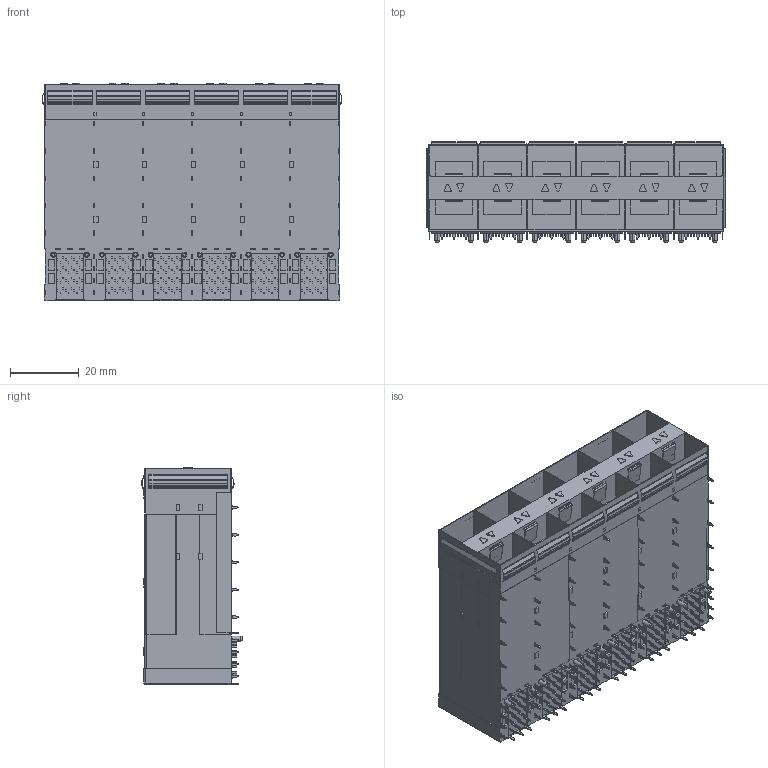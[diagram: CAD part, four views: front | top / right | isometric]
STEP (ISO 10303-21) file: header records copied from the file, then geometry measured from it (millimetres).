
FILE_DESCRIPTION (( 'STEP AP214' ), '1' );
FILE_NAME ('SFP28 2X6 有月牙 内灯(上下) 3D.STEP', '2025-06-13T00:12:54', ( '桑三博客' ), ( 'Www.SangSan.Cn' ), 'SwSTEP 2.0', 'SolidWorks 2018', '' );
FILE_SCHEMA (( 'AUTOMOTIVE_DESIGN' ));
Products named in the file (1): SFP28 2X6 衄堎挴 囀腑(奻狟)  3D
Bounding box: 87.56 x 29.38 x 63.5 mm (x, y, z)
Volume: 69810 mm3; surface area: 49851.2 mm2
Topology: 1 solids, 1 shells, 4376 faces, 12171 edges, 8222 vertices
Faces by surface type: plane 3036, cylinder 1314, cone 24, sphere 2
Entity records: 140235 total; most frequent: CARTESIAN_POINT 24768, ORIENTED_EDGE 24338, DIRECTION 23579, EDGE_CURVE 12169, LINE 9513, VECTOR 9513, VERTEX_POINT 8222, AXIS2_PLACEMENT_3D 7033
